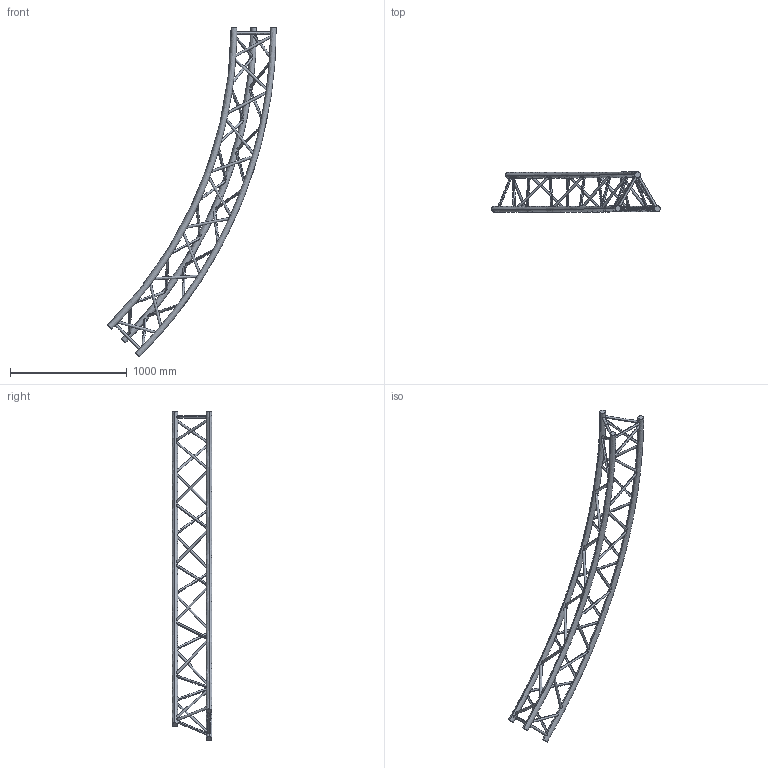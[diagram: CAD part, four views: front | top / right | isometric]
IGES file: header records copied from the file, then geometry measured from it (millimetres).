
Start section: SolidWorks IGES file using analytic representation for surfaces
Global section: file name: K:\BIBLIO\asd_biblio\SX390\Cercles\SXC39PH\SXC39800PH\SXC39800PH.IGS; native system: SolidWorks 2009; preprocessor: SolidWorks 2009; author: des3; date: 091021.132840; units: millimetre
Bounding box: 1445.22 x 341.85 x 2828.43 mm (x, y, z)
Surface area: 2248066.4 mm2 (no closed solid volume)
Topology: 0 solids, 0 shells, 90 faces, 6476 edges, 6476 vertices
Faces by surface type: revolution 78, bspline 12
